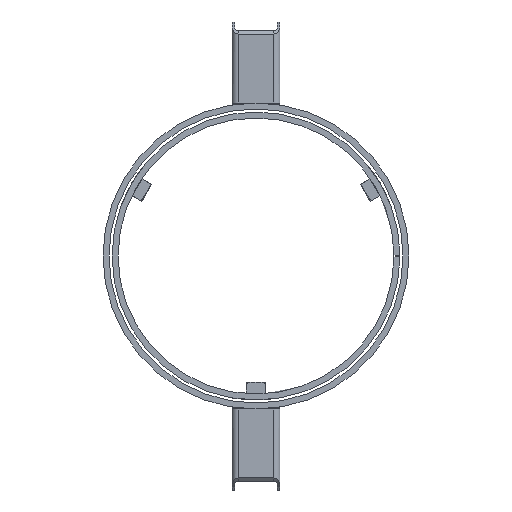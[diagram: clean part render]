
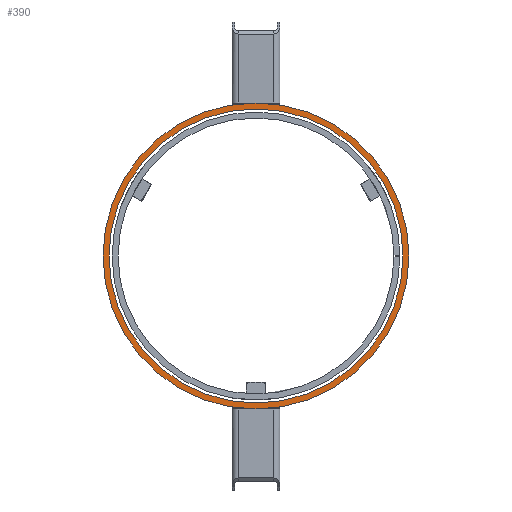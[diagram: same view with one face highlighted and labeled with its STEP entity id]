
A CAD part, front view. The second image highlights one B-rep face of the part: STEP entity #390.
In plain terms, the highlighted planar face has unit normal (0, -1, 0).
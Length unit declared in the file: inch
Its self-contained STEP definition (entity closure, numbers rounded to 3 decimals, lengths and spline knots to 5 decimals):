
#206 = EDGE_CURVE ( 'NONE', #1683, #4912, #1771, .T. ) ;
#251 = AXIS2_PLACEMENT_3D ( 'NONE', #4069, #992, #4582 ) ;
#280 = DIRECTION ( 'NONE',  ( 0., 0., 1. ) ) ;
#390 = ADVANCED_FACE ( 'NONE', ( #5069, #3704 ), #6603, .F. ) ;
#396 = AXIS2_PLACEMENT_3D ( 'NONE', #762, #3329, #1775 ) ;
#613 = CARTESIAN_POINT ( 'NONE',  ( 0., -0.25, 0. ) ) ;
#616 = EDGE_LOOP ( 'NONE', ( #2950, #1464 ) ) ;
#762 = CARTESIAN_POINT ( 'NONE',  ( 0., -0.25, 0. ) ) ;
#992 = DIRECTION ( 'NONE',  ( 0., 1., 0. ) ) ;
#1098 = DIRECTION ( 'NONE',  ( 0., 0., 1. ) ) ;
#1354 = DIRECTION ( 'NONE',  ( 0., -1., 0. ) ) ;
#1464 = ORIENTED_EDGE ( 'NONE', *, *, #206, .F. ) ;
#1683 = VERTEX_POINT ( 'NONE', #2104 ) ;
#1699 = CARTESIAN_POINT ( 'NONE',  ( 0., -0.25, -6.375 ) ) ;
#1771 = CIRCLE ( 'NONE', #4164, 6.125 ) ;
#1775 = DIRECTION ( 'NONE',  ( 0., 0., 1. ) ) ;
#1799 = EDGE_CURVE ( 'NONE', #2454, #2126, #5780, .T. ) ;
#1893 = DIRECTION ( 'NONE',  ( 0., 0., 1. ) ) ;
#2104 = CARTESIAN_POINT ( 'NONE',  ( 0., -0.25, -6.125 ) ) ;
#2126 = VERTEX_POINT ( 'NONE', #3073 ) ;
#2138 = EDGE_LOOP ( 'NONE', ( #6437, #2159 ) ) ;
#2159 = ORIENTED_EDGE ( 'NONE', *, *, #1799, .F. ) ;
#2412 = AXIS2_PLACEMENT_3D ( 'NONE', #2919, #5467, #1893 ) ;
#2454 = VERTEX_POINT ( 'NONE', #1699 ) ;
#2872 = AXIS2_PLACEMENT_3D ( 'NONE', #613, #4719, #1098 ) ;
#2919 = CARTESIAN_POINT ( 'NONE',  ( 0., -0.25, 0. ) ) ;
#2950 = ORIENTED_EDGE ( 'NONE', *, *, #5520, .F. ) ;
#3073 = CARTESIAN_POINT ( 'NONE',  ( 0., -0.25, 6.375 ) ) ;
#3297 = EDGE_CURVE ( 'NONE', #2126, #2454, #6468, .T. ) ;
#3329 = DIRECTION ( 'NONE',  ( 0., 1., 0. ) ) ;
#3360 = CARTESIAN_POINT ( 'NONE',  ( 0., -0.25, 0. ) ) ;
#3452 = CIRCLE ( 'NONE', #2872, 6.125 ) ;
#3704 = FACE_BOUND ( 'NONE', #616, .T. ) ;
#4069 = CARTESIAN_POINT ( 'NONE',  ( 0., -0.25, 0. ) ) ;
#4164 = AXIS2_PLACEMENT_3D ( 'NONE', #3360, #1354, #280 ) ;
#4582 = DIRECTION ( 'NONE',  ( 0., 0., 1. ) ) ;
#4719 = DIRECTION ( 'NONE',  ( 0., -1., 0. ) ) ;
#4912 = VERTEX_POINT ( 'NONE', #5646 ) ;
#5069 = FACE_OUTER_BOUND ( 'NONE', #2138, .T. ) ;
#5467 = DIRECTION ( 'NONE',  ( 0., 1., 0. ) ) ;
#5520 = EDGE_CURVE ( 'NONE', #4912, #1683, #3452, .T. ) ;
#5646 = CARTESIAN_POINT ( 'NONE',  ( 0., -0.25, 6.125 ) ) ;
#5780 = CIRCLE ( 'NONE', #396, 6.375 ) ;
#6437 = ORIENTED_EDGE ( 'NONE', *, *, #3297, .F. ) ;
#6468 = CIRCLE ( 'NONE', #2412, 6.375 ) ;
#6603 = PLANE ( 'NONE',  #251 ) ;
